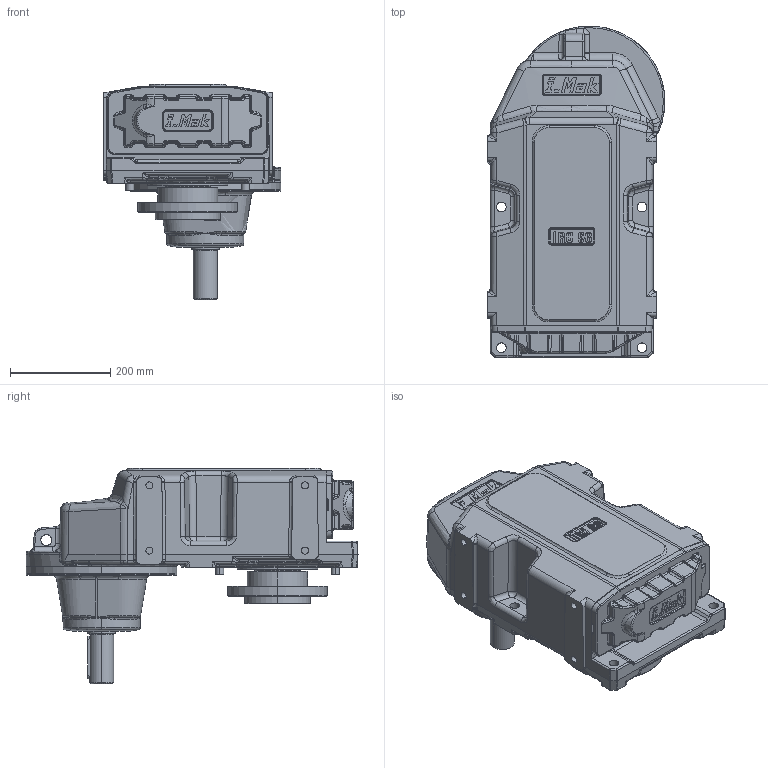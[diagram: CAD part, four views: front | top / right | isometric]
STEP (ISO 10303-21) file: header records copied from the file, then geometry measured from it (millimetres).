
FILE_DESCRIPTION (( 'STEP AP203' ), '1' );
FILE_NAME ('IRC 93.step', '2023-12-19T14:55:03', ( '' ), ( '' ), 'SwSTEP 2.0', 'SolidWorks 2022', '' );
FILE_SCHEMA (( 'CONFIG_CONTROL_DESIGN' ));
Length unit declared in the file: millimetre
Products named in the file (4): IRC 93-; M.suz Kapak İR93, İRK103, YP103, İRC93; Şase_Ø300; IRC 93
Assembly tree (3 placements, depth 2):
  IRC 93
    Şase_Ø300
    IRC 93-
    M.suz Kapak İR93, İRK103, YP103, İRC93
Bounding box: 354.1 x 660.95 x 429 mm (x, y, z)
Volume: 36579906.1 mm3; surface area: 1265629.8 mm2
Topology: 4 solids, 4 shells, 1695 faces, 4264 edges, 2575 vertices
Faces by surface type: cylinder 612, bspline 593, plane 385, cone 97, torus 8
Entity records: 77008 total; most frequent: CARTESIAN_POINT 40207, ORIENTED_EDGE 8408, DIRECTION 6528, EDGE_CURVE 4204, VERTEX_POINT 2575, AXIS2_PLACEMENT_3D 2443, EDGE_LOOP 1815, ADVANCED_FACE 1695
